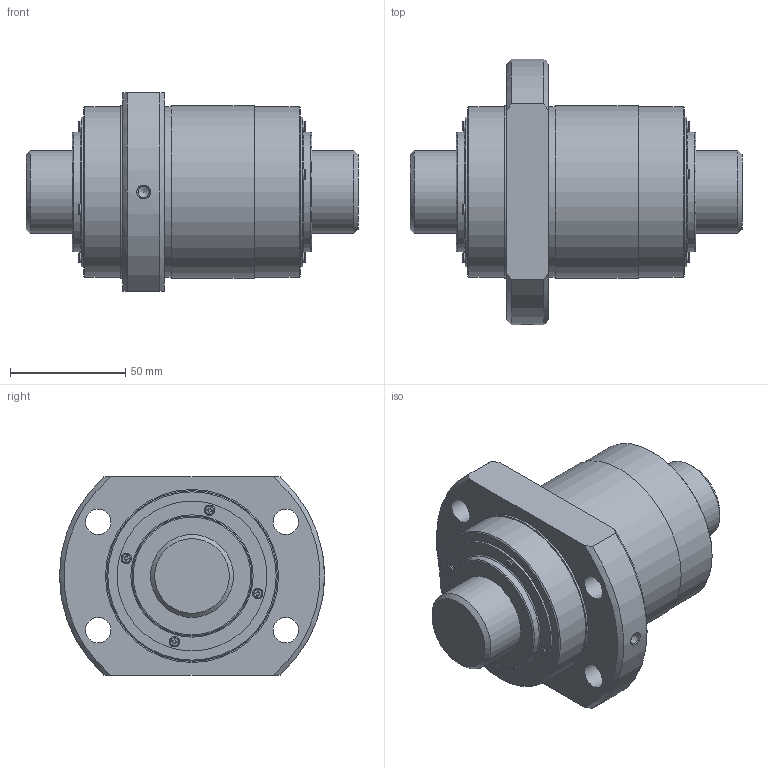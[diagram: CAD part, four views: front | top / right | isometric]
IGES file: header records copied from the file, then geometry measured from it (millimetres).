
Start section: Data from Parasolid IGES Translator 26.0.171, Copyright(c) 2006 Siemens PLM Software. All Rights Reserved.
Global section: file name: BLK3624-5.6ZZ+144LC7T_000.igs; native system: By Siemens PLM Incorporated; preprocessor: XPlus GENERIC/IGES 26.0.171; author: Noname; organization: Noname; date: 20250611.062950; units: millimetre
Bounding box: 144 x 115 x 86 mm (x, y, z)
Surface area: 72801.6 mm2 (no closed solid volume)
Topology: 0 solids, 0 shells, 215 faces, 1083 edges, 1007 vertices
Faces by surface type: extrusion 127, revolution 88
